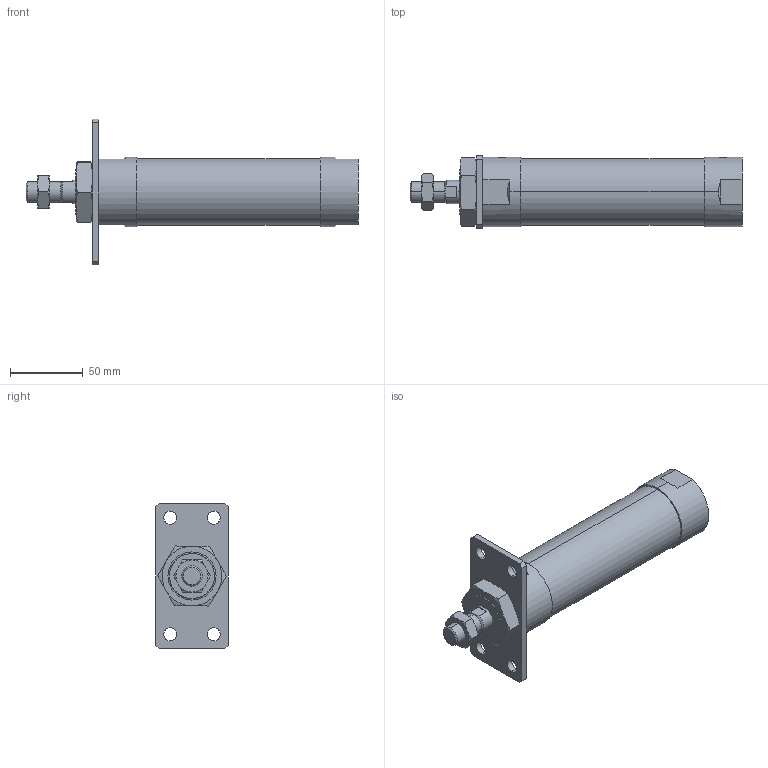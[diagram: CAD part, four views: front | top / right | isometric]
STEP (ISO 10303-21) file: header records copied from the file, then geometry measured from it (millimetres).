
FILE_DESCRIPTION (( 'STEP AP203' ), '1' );
FILE_NAME ('JGND2-40-75-A.STEP', '2016-08-04T03:06:31', ( '' ), ( '' ), 'SwSTEP 2.0', 'SolidWorks 2014', '' );
FILE_SCHEMA (( 'CONFIG_CONTROL_DESIGN' ));
Length unit declared in the file: millimetre
Products named in the file (5): JGND2-40-75-A; J#2-40-75(P); J#2-40-A
Assembly tree (4 placements, depth 2):
  JGND2-40-75-A
    J#2-40-75(P)
    (unnamed)
    (unnamed)
    J#2-40-A
Bounding box: 228 x 50 x 100 mm (x, y, z)
Volume: 346277.7 mm3; surface area: 49732.5 mm2
Topology: 4 solids, 4 shells, 109 faces, 254 edges, 155 vertices
Faces by surface type: plane 42, cylinder 30, torus 24, cone 13
Entity records: 4068 total; most frequent: CARTESIAN_POINT 1112, DIRECTION 511, ORIENTED_EDGE 500, EDGE_CURVE 250, AXIS2_PLACEMENT_3D 208, VERTEX_POINT 155, EDGE_LOOP 129, FACE_OUTER_BOUND 109
